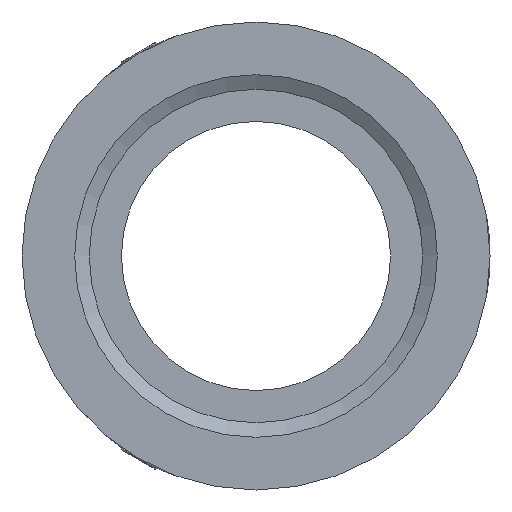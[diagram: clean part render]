
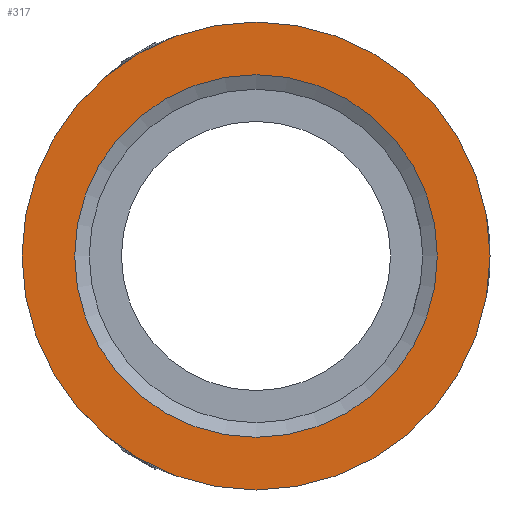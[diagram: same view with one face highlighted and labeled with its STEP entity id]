
A CAD part, front view. The second image highlights one B-rep face of the part: STEP entity #317.
In plain terms, the highlighted planar face has unit normal (0, -1, 0).
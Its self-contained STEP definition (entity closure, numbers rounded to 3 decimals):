
#317=ADVANCED_FACE('',(#464,#465),#408,.F.);
#408=PLANE('',#1246);
#464=FACE_BOUND('',#558,.T.);
#465=FACE_BOUND('',#559,.T.);
#558=EDGE_LOOP('',(#692));
#559=EDGE_LOOP('',(#693));
#692=ORIENTED_EDGE('',*,*,#1057,.T.);
#693=ORIENTED_EDGE('',*,*,#1058,.F.);
#962=VERTEX_POINT('',#1734);
#963=VERTEX_POINT('',#1736);
#1057=EDGE_CURVE('',#962,#962,#1192,.T.);
#1058=EDGE_CURVE('',#963,#963,#1193,.T.);
#1192=CIRCLE('',#1244,15.5);
#1193=CIRCLE('',#1245,20.);
#1244=AXIS2_PLACEMENT_3D('',#1733,#1384,#1385);
#1245=AXIS2_PLACEMENT_3D('',#1735,#1386,#1387);
#1246=AXIS2_PLACEMENT_3D('',#1737,#1388,#1389);
#1384=DIRECTION('',(0.,1.,0.));
#1385=DIRECTION('',(1.,0.,0.));
#1386=DIRECTION('',(0.,1.,0.));
#1387=DIRECTION('',(-1.,0.,0.));
#1388=DIRECTION('',(0.,1.,0.));
#1389=DIRECTION('',(0.,0.,1.));
#1733=CARTESIAN_POINT('',(0.,0.,0.));
#1734=CARTESIAN_POINT('',(15.5,0.,0.));
#1735=CARTESIAN_POINT('',(0.,0.,0.));
#1736=CARTESIAN_POINT('',(-20.,0.,0.));
#1737=CARTESIAN_POINT('',(0.,0.,0.));
